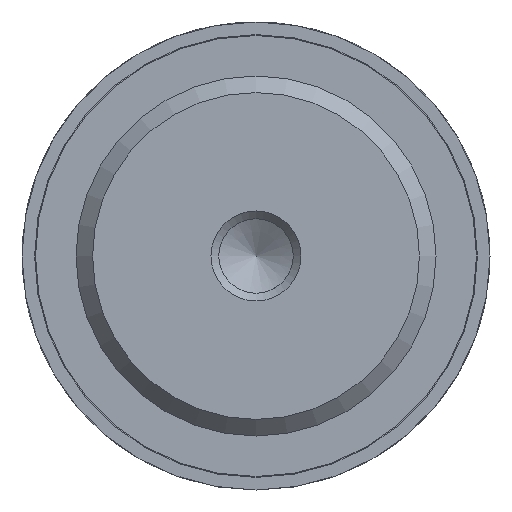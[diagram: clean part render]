
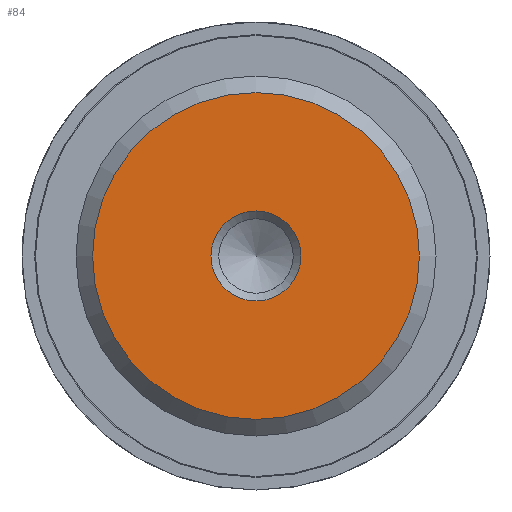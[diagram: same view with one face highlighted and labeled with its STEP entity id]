
A CAD part, front view. The second image highlights one B-rep face of the part: STEP entity #84.
In plain terms, the highlighted planar face has unit normal (0, -1, 0).
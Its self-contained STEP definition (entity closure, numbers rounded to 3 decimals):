
#84 = ADVANCED_FACE( '', ( #135, #136 ), #137, .F. );
#135 = FACE_BOUND( '', #222, .T. );
#136 = FACE_OUTER_BOUND( '', #223, .T. );
#137 = PLANE( '', #224 );
#222 = EDGE_LOOP( '', ( #330 ) );
#223 = EDGE_LOOP( '', ( #331 ) );
#224 = AXIS2_PLACEMENT_3D( '', #332, #333, #334 );
#330 = ORIENTED_EDGE( '', *, *, #484, .F. );
#331 = ORIENTED_EDGE( '', *, *, #485, .T. );
#332 = CARTESIAN_POINT( '', ( 9.08, 0., 0. ) );
#333 = DIRECTION( '', ( 0., 1., 0. ) );
#334 = DIRECTION( '', ( 0., 0., 1. ) );
#484 = EDGE_CURVE( '', #546, #546, #547, .T. );
#485 = EDGE_CURVE( '', #548, #548, #549, .T. );
#546 = VERTEX_POINT( '', #758 );
#547 = CIRCLE( '', #759, 2.5 );
#548 = VERTEX_POINT( '', #760 );
#549 = CIRCLE( '', #761, 9.08 );
#758 = CARTESIAN_POINT( '', ( 2.5, 0., 0. ) );
#759 = AXIS2_PLACEMENT_3D( '', #941, #942, #943 );
#760 = CARTESIAN_POINT( '', ( 0., 0., -9.08 ) );
#761 = AXIS2_PLACEMENT_3D( '', #944, #945, #946 );
#941 = CARTESIAN_POINT( '', ( 0., 0., 0. ) );
#942 = DIRECTION( '', ( 0., -1., 0. ) );
#943 = DIRECTION( '', ( 1., 0., 0. ) );
#944 = CARTESIAN_POINT( '', ( 0., 0., 0. ) );
#945 = DIRECTION( '', ( 0., -1., 0. ) );
#946 = DIRECTION( '', ( 0., 0., -1. ) );
